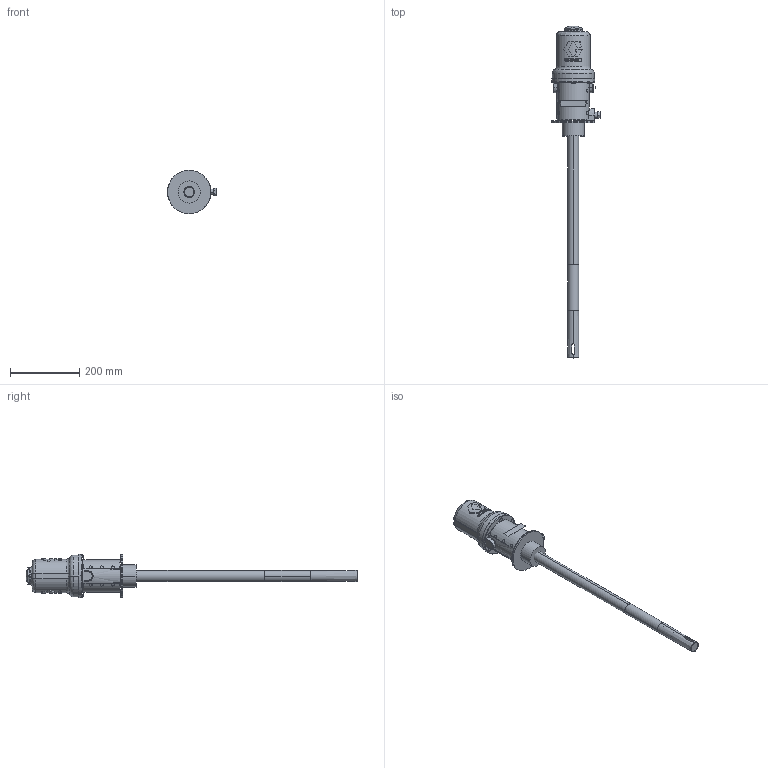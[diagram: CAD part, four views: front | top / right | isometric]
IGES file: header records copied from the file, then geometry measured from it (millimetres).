
Start section:  PTC IGES file: 253361-en-u.igs
Global section: file name: 253361-en-u.igs; native system: Creo Parametric by PTC Inc.; preprocessor: 2021072; author: qtmwp1; organization: Unknown; date: 20240221.094031; units: inch
Bounding box: 140.74 x 956.87 x 124.81 mm (x, y, z)
Surface area: 229359.9 mm2 (no closed solid volume)
Topology: 0 solids, 0 shells, 267 faces, 1309 edges, 1309 vertices
Faces by surface type: revolution 147, bspline 120
